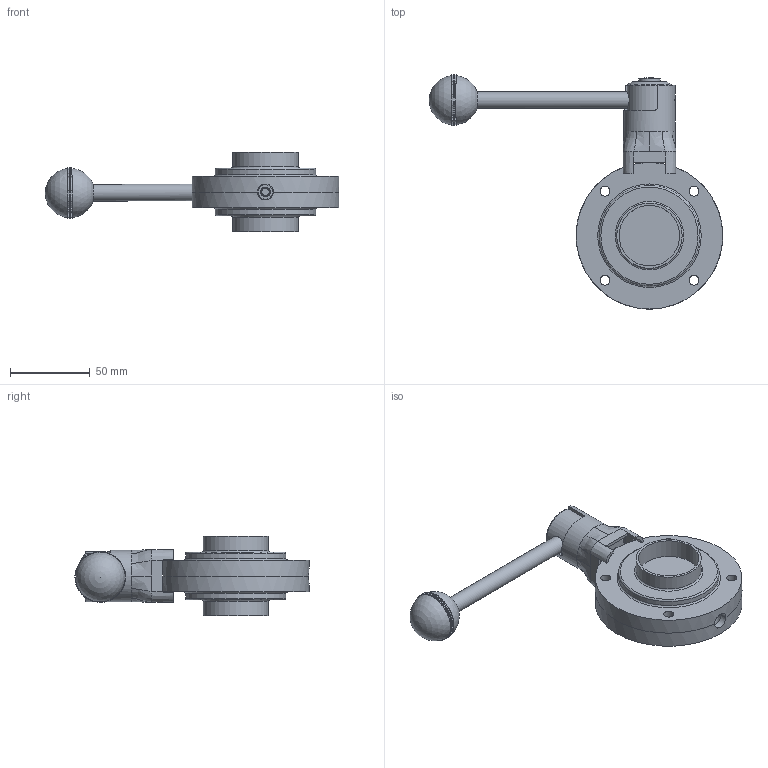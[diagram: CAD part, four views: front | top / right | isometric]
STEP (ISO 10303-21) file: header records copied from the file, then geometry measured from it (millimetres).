
FILE_DESCRIPTION(/* description */ ('VVF VALV.FARF.DN40 (41X1.5) SS EPDM 316 LEVA INOX 3POS.'),/* implementation_level */ '2;1');
FILE_NAME(/* name */ 'C:\_DED_PWS\GIOR-G\DB\B\EBA\BEBACG040BEBV-00^SAGOMA.step',/* time_stamp */ '2023-08-07T13:25:26+02:00',/* author */ (''),/* organization */ (''),/* preprocessor_version */ 'ST-DEVELOPER v18.1',/* originating_system */ 'Autodesk Inventor 2022',/* authorisation */ '');
FILE_SCHEMA (('CONFIG_CONTROL_DESIGN'));
Length unit declared in the file: millimetre
Products named in the file (3): BEBACG040BEBV; TNU430065AAA; TWD006040BBA
Assembly tree (3 placements, depth 2):
  BEBACG040BEBV
    TNU430065AAA
    TWD006040BBA  x2
Bounding box: 184.18 x 146.94 x 50 mm (x, y, z)
Volume: 203484.7 mm3; surface area: 67593.6 mm2
Topology: 5 solids, 6 shells, 543 faces, 1321 edges, 871 vertices
Faces by surface type: plane 353, torus 85, cylinder 56, bspline 38, cone 7, sphere 4
Full cylindrical faces by diameter (mm): 6 x2, 6.2 x8, 6.5 x3, 9 x3, 9.3 x1, 10 x1, 10.4 x1, 10.5 x1, 11 x1, 11.1 x1, 11.4 x2, 13.4 x1, 15 x1, 15.2 x1, 27.8 x1, 28.4 x1, 32.2 x1, 38 x2, 41 x2, 63 x2, 92 x2
Entity records: 26313 total; most frequent: CARTESIAN_POINT 13511, DIRECTION 2564, ORIENTED_EDGE 2544, EDGE_CURVE 1272, AXIS2_PLACEMENT_3D 1067, VERTEX_POINT 840, EDGE_LOOP 624, CIRCLE 576
